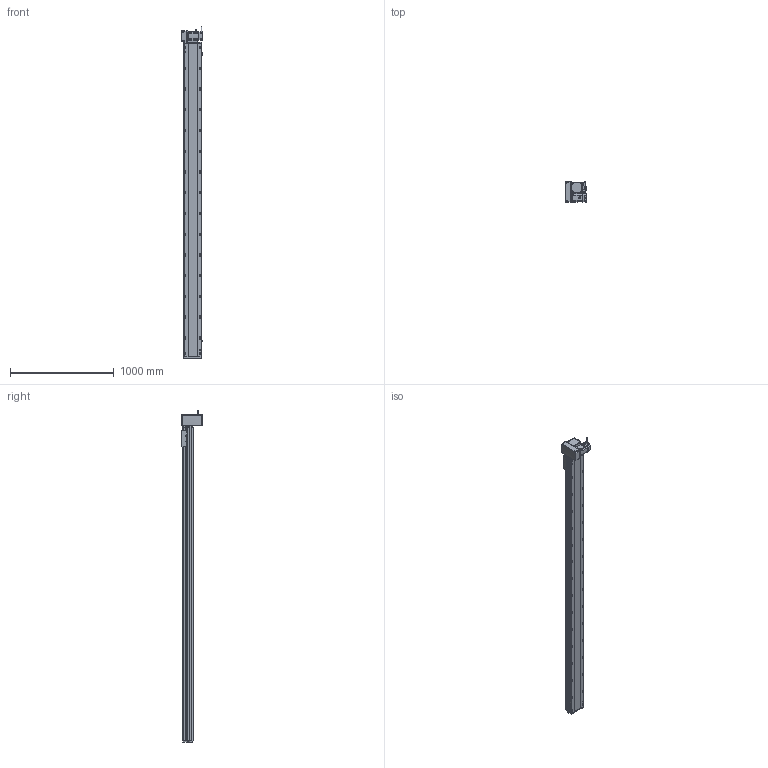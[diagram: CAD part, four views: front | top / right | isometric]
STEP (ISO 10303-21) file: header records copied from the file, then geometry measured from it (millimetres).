
FILE_DESCRIPTION (( 'STEP AP214' ), '1' );
FILE_NAME ('RTB17S-XX-2750-LM-M75-C4.STEP', '2025-12-12T00:48:17', ( '' ), ( '' ), 'SwSTEP 2.0', 'SolidWorks 2018', '' );
FILE_SCHEMA (( 'AUTOMOTIVE_DESIGN' ));
Length unit declared in the file: millimetre
Products named in the file (15): RTB17S-LM-々湍釱蚾饜-750W^RTB17S-XX-XX-LM-M75-C4; RTH13-BL-012覜茼え俋离^RTB17S-賑釱_RTB17S-XX-XX-LM-M75-C4; RTB22S-GY-005P^RTB17S-LM-々湍釱蚾饜-750W_RTB17S-XX-XX-LM-M75-C4; RTB17S-L-001-耜醱啣^RTB17S-XX-XX-LM-M75-C4; EE672^RTB17S-XX-XX-LM-M75-C4; RTB17S-L-007奻裔^RTB17S-XX-XX-LM-M75-C4; RTB17S-賑釱^RTB17S-XX-XX-LM-M75-C4; RTB22S-GY-018P^RTB17S-LM-々湍釱蚾饜-750W_RTB17S-XX-XX-LM-M75-C4; RTB22S-GY-008-M75--萇儂啣^RTB17S-LM-々湍釱蚾饜-750W_RTB17S-XX-XX-LM-M75-C4; RTB22S-GY-017P^RTB17S-LM-々湍釱蚾饜-750W_RTB17S-XX-XX-LM-M75-C4; RTB17-R-011菁釱^RTB17S-XX-XX-LM-M75-C4; 750W萇儂^RTB17S-XX-XX-LM-M75-C4; RTB17S-L-004-賑釱^RTB17S-賑釱_RTB17S-XX-XX-LM-M75-C4; RTB17S-L-014-T20-P75--々湍釱^RTB17S-LM-々湍釱蚾饜-750W_RTB17S-XX-XX-LM-M75-C4; RTB17S-XX-2750-LM-M75-C4
Assembly tree (17 placements, depth 3):
  RTB17S-XX-2750-LM-M75-C4
    RTB17-R-011菁釱^RTB17S-XX-XX-LM-M75-C4
    EE672^RTB17S-XX-XX-LM-M75-C4  x3
    RTB17S-L-001-耜醱啣^RTB17S-XX-XX-LM-M75-C4
    RTB17S-賑釱^RTB17S-XX-XX-LM-M75-C4
      RTB17S-L-004-賑釱^RTB17S-賑釱_RTB17S-XX-XX-LM-M75-C4
      RTH13-BL-012覜茼え俋离^RTB17S-賑釱_RTB17S-XX-XX-LM-M75-C4
    RTB17S-L-007奻裔^RTB17S-XX-XX-LM-M75-C4
    750W萇儂^RTB17S-XX-XX-LM-M75-C4
    RTB17S-LM-々湍釱蚾饜-750W^RTB17S-XX-XX-LM-M75-C4
      RTB17S-L-014-T20-P75--々湍釱^RTB17S-LM-々湍釱蚾饜-750W_RTB17S-XX-XX-LM-M75-C4
      RTB22S-GY-005P^RTB17S-LM-々湍釱蚾饜-750W_RTB17S-XX-XX-LM-M75-C4
      RTB22S-GY-017P^RTB17S-LM-々湍釱蚾饜-750W_RTB17S-XX-XX-LM-M75-C4  x2
      RTB22S-GY-008-M75--萇儂啣^RTB17S-LM-々湍釱蚾饜-750W_RTB17S-XX-XX-LM-M75-C4
      RTB22S-GY-018P^RTB17S-LM-々湍釱蚾饜-750W_RTB17S-XX-XX-LM-M75-C4
Bounding box: 210.4 x 200 x 3202.2 mm (x, y, z)
Volume: 23140667.1 mm3; surface area: 4220495.2 mm2
Topology: 17 solids, 17 shells, 2233 faces, 6268 edges, 4058 vertices
Faces by surface type: plane 988, cylinder 829, bspline 294, cone 110, sphere 8, torus 4
Entity records: 65014 total; most frequent: CARTESIAN_POINT 19332, ORIENTED_EDGE 9380, DIRECTION 8672, EDGE_CURVE 4690, AXIS2_PLACEMENT_3D 3078, VERTEX_POINT 3062, LINE 2516, VECTOR 2516
